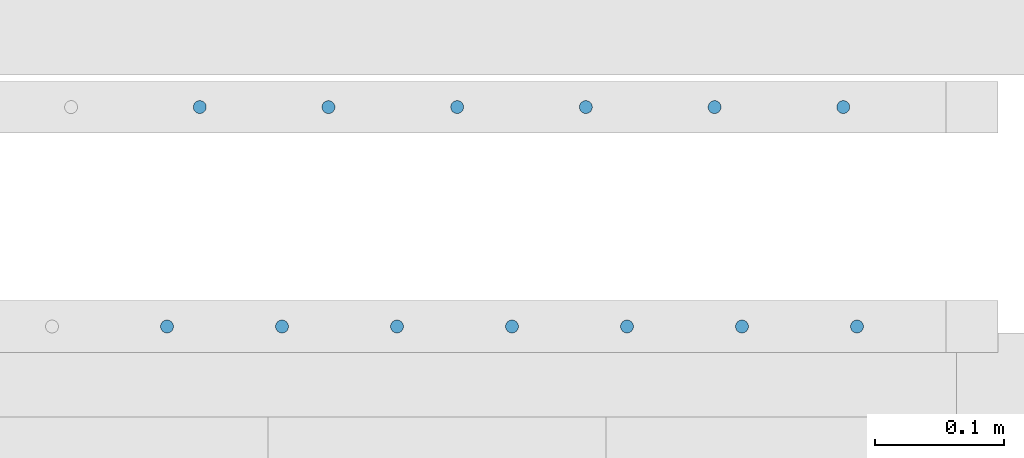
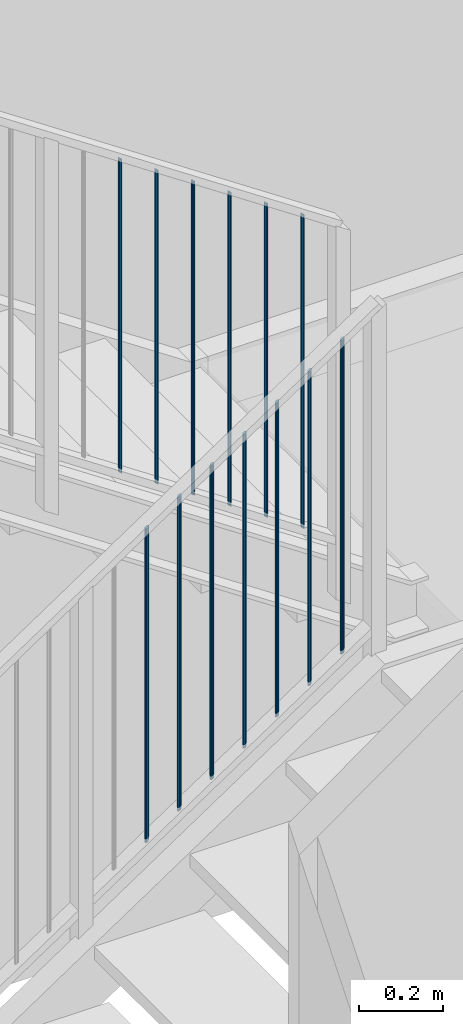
# One storey, part 8 of 117: 13 members, 2 elements without a shape of their own.
"""IFC2X3 building model written with IfcOpenShell, lengths in millimetres."""

import ifcopenshell
import ifcopenshell.guid

model = None  # the IFC model being written
_history = None  # IfcOwnerHistory: only IFC2X3 demands one
_inside = {}  # id of a spatial element -> (the spatial element, [elements in it])
_under = {}  # id of a project, library or spatial element -> (it, [spatial elements below it])
_declared = {}  # id of a project -> (the project, [libraries it declares])
_typed = {}  # id of a type object -> (the type object, [elements of that type])
_made_of = {}  # id of a material, layer set ... -> (it, [elements and type objects made of it])


def new_model(schema):
    """Start an empty IFC model of exactly this schema.

    Asked for "IFC4X3", IfcOpenShell would pick the latest addendum, in which some entities
    have other attributes; the version numbers below select the first issue.
    IFC2X3 requires an IfcOwnerHistory on every rooted entity: one is made here for all.
    """
    global model, _history
    if schema == "IFC4X3":
        model = ifcopenshell.file(schema_version=(4, 3, 0, 0))
    else:
        model = ifcopenshell.file(schema=schema)
    _inside.clear()
    _under.clear()
    _declared.clear()
    _typed.clear()
    _made_of.clear()
    _history = None
    if model.schema == "IFC2X3":
        org = make("IfcOrganization", Name="unknown")
        user = make(
            "IfcPersonAndOrganization",
            ThePerson=make("IfcPerson", FamilyName="unknown"),
            TheOrganization=org,
        )
        app = make(
            "IfcApplication",
            ApplicationDeveloper=org,
            Version="unknown",
            ApplicationFullName="unknown",
            ApplicationIdentifier="unknown",
        )
        _history = make(
            "IfcOwnerHistory",
            OwningUser=user,
            OwningApplication=app,
            ChangeAction="ADDED",
            CreationDate=0,
        )
    return model


def make(cls, **values):
    """One entity of the class cls with the attributes given. An attribute that is None is left unset."""
    return model.create_entity(
        cls, **{name: value for name, value in values.items() if value is not None}
    )


def entity(cls, *values):
    """Any entity or typed value of the class cls, its attributes in the order of the schema. None: left unset."""
    e = model.create_entity(cls)
    for i, value in enumerate(values):
        if value is not None:
            e[i] = value
    return e


def rooted(cls, **values):
    """An entity with a GlobalId (a new one), such as an element, a storey or a relation."""
    return make(cls, GlobalId=ifcopenshell.guid.new(), OwnerHistory=_history, **values)


def si_unit(unit_type, name, prefix=None):
    """IfcSIUnit, for example si_unit("LENGTHUNIT", "METRE", prefix="MILLI")."""
    return make("IfcSIUnit", UnitType=unit_type, Prefix=prefix, Name=name)


def converted_unit(unit_type, name, factor, base, dimensions=None, offset=None):
    """IfcConversionBasedUnit, such as the inch: factor (a typed value) times the base unit."""
    return make(
        "IfcConversionBasedUnit"
        if offset is None
        else "IfcConversionBasedUnitWithOffset",
        ConversionOffset=offset,
        Dimensions=None
        if dimensions is None
        else entity("IfcDimensionalExponents", *dimensions),
        UnitType=unit_type,
        Name=name,
        ConversionFactor=make(
            "IfcMeasureWithUnit", ValueComponent=factor, UnitComponent=base
        ),
    )


def derived_unit(unit_type, elements):
    """IfcDerivedUnit: a product of units, each with its exponent."""
    return make(
        "IfcDerivedUnit",
        Elements=[
            make("IfcDerivedUnitElement", Unit=unit, Exponent=power)
            for unit, power in elements
        ],
        UnitType=unit_type,
    )


def money_unit(currency):
    """IfcMonetaryUnit."""
    return make("IfcMonetaryUnit", Currency=currency)


def assignment(units):
    """IfcUnitAssignment: the units of a project."""
    return None if units is None else make("IfcUnitAssignment", Units=units)


def point(xyz):
    """IfcCartesianPoint."""
    return None if xyz is None else make("IfcCartesianPoint", Coordinates=xyz)


def direction(xyz):
    """IfcDirection."""
    return None if xyz is None else make("IfcDirection", DirectionRatios=xyz)


def frame(location, z_axis=None, x_axis=None):
    """IfcAxis2Placement3D, a coordinate frame: its origin and axes. An axis left out is left unset."""
    return make(
        "IfcAxis2Placement3D",
        Location=point(location),
        Axis=direction(z_axis),
        RefDirection=direction(x_axis),
    )


def origin_with_axes():
    """The frame at (0, 0, 0) with the z axis (0, 0, 1) and the x axis (1, 0, 0) written out."""
    return frame((0.0, 0.0, 0.0), z_axis=(0.0, 0.0, 1.0), x_axis=(1.0, 0.0, 0.0))


def place(relative_to, where):
    """IfcLocalPlacement: puts the frame where relative to a parent placement (None: the world)."""
    return make(
        "IfcLocalPlacement", PlacementRelTo=relative_to, RelativePlacement=where
    )


def context(
    kind, dimensions, precision=None, world=None, true_north=None, identifier=None
):
    """IfcGeometricRepresentationContext, for example the 3D "Model" context."""
    return make(
        "IfcGeometricRepresentationContext",
        ContextIdentifier=identifier,
        ContextType=kind,
        CoordinateSpaceDimension=dimensions,
        Precision=precision,
        WorldCoordinateSystem=world,
        TrueNorth=true_north,
    )


def subcontext(parent, identifier, kind, view, scale=None):
    """IfcGeometricRepresentationSubContext, for example "Body" below "Model"."""
    return make(
        "IfcGeometricRepresentationSubContext",
        ContextIdentifier=identifier,
        ContextType=kind,
        ParentContext=parent,
        TargetScale=scale,
        TargetView=view,
    )


def project(units=None, contexts=None):
    """IfcProject with its units and contexts."""
    return rooted(
        "IfcProject",
        Name="project",
        RepresentationContexts=contexts,
        UnitsInContext=assignment(units),
    )


def spatial(cls, under=None, at=None, **own):
    """A site, building, storey or space (cls), placed at a placement, below another one or the project."""
    s = rooted(cls, ObjectPlacement=at, **own)
    if under is not None:
        _under.setdefault(under.id(), (under, []))[1].append(s)
    return s


def faces_of(points, faces, orient=None, outer=None):
    """IfcFace entities. A face is a list of loops; a loop is a list of indices into points, from 0.

    orient and outer hold one flag for each loop. By default every Orientation is true, the
    first loop of a face is its IfcFaceOuterBound and the others are IfcFaceBound.
    """
    made = []
    for i, loops in enumerate(faces):
        bounds = []
        for j, loop in enumerate(loops):
            is_outer = j == 0 if outer is None else outer[i][j]
            bounds.append(
                make(
                    "IfcFaceOuterBound" if is_outer else "IfcFaceBound",
                    Bound=make("IfcPolyLoop", Polygon=[points[k] for k in loop]),
                    Orientation=True if orient is None else orient[i][j],
                )
            )
        made.append(make("IfcFace", Bounds=bounds))
    return made


def faceted_brep(points, faces, orient=None, outer=None, voids=None):
    """IfcFacetedBrep: a solid bounded by flat faces; with voids (closed shells), ...WithVoids."""
    shared = [point(p) for p in points]
    hull = make("IfcClosedShell", CfsFaces=faces_of(shared, faces, orient, outer))
    if voids is None:
        return make("IfcFacetedBrep", Outer=hull)
    return make(
        "IfcFacetedBrepWithVoids",
        Outer=hull,
        Voids=[
            make(cls, CfsFaces=faces_of(shared, fs, o, b)) for cls, fs, o, b in voids
        ],
    )


def shape(context_of_items, identifier, shape_type, items):
    """IfcShapeRepresentation: the items that make up one representation, for example the "Body"."""
    return make(
        "IfcShapeRepresentation",
        ContextOfItems=context_of_items,
        RepresentationIdentifier=identifier,
        RepresentationType=shape_type,
        Items=items,
    )


def source(mapping_origin, context_of_items, identifier, shape_type, items):
    """IfcRepresentationMap: a shape defined once, which mapped items show again and again."""
    return make(
        "IfcRepresentationMap",
        MappingOrigin=mapping_origin,
        MappedRepresentation=shape(context_of_items, identifier, shape_type, items),
    )


def transform(
    local_origin,
    x_axis=None,
    y_axis=None,
    z_axis=None,
    scale=None,
    scale2=None,
    scale3=None,
    uniform=True,
):
    """IfcCartesianTransformationOperator3D, or its non-uniform kind. x_axis, y_axis, z_axis: its Axis1, 2, 3."""
    if uniform:
        return make(
            "IfcCartesianTransformationOperator3D",
            Axis1=direction(x_axis),
            Axis2=direction(y_axis),
            LocalOrigin=point(local_origin),
            Scale=scale,
            Axis3=direction(z_axis),
        )
    return make(
        "IfcCartesianTransformationOperator3DnonUniform",
        Axis1=direction(x_axis),
        Axis2=direction(y_axis),
        LocalOrigin=point(local_origin),
        Scale=scale,
        Axis3=direction(z_axis),
        Scale2=scale2,
        Scale3=scale3,
    )


def mapped(mapping_source, mapping_target):
    """IfcMappedItem: shows the shape of a source again, moved by a transform."""
    return make(
        "IfcMappedItem", MappingSource=mapping_source, MappingTarget=mapping_target
    )


def material(Name=None, Category=None):
    """IfcMaterial."""
    return make("IfcMaterial", Name=Name, Category=Category)


def made_of(thing, what):
    """Note that an element or type object is made of a material, layer set ...; save() writes the relation."""
    if what is not None:
        _made_of.setdefault(what.id(), (what, []))[1].append(thing)
    return thing


def type_object(cls, material=None, **own):
    """A type object (cls), such as IfcWallType, which elements share."""
    return made_of(rooted(cls, **own), material)


def type_shapes(of_type, sources):
    """Give a type object the sources (RepresentationMaps) that its elements show as mapped items."""
    of_type.RepresentationMaps = sources


def element(
    cls,
    number,
    at=None,
    inside=None,
    cuts=None,
    type_object=None,
    material=None,
    context=None,
    identifier="Body",
    shape_type=None,
    held_by="IfcProductDefinitionShape",
    body=None,
    shapes=None,
    **own,
):
    """One element of the class cls, such as IfcWall. Its Tag is "e" and its number.

    at: its placement. inside: the storey or other place that contains it. cuts: it is an
    opening in that element (IfcRelVoidsElement). A single representation is given by context,
    identifier, shape_type and body (its items); several are given by shapes. held_by: the class
    of the entity that holds the representations. save() writes the other relations.
    """
    e = rooted(cls, Tag="e%d" % number, ObjectPlacement=at, **own)
    if body is not None:
        shapes = [shape(context, identifier, shape_type, body)]
    if shapes is not None:
        e.Representation = make(held_by, Representations=shapes)
    if inside is not None:
        _inside.setdefault(inside.id(), (inside, []))[1].append(e)
    if cuts is not None:
        rooted(
            "IfcRelVoidsElement", RelatingBuildingElement=cuts, RelatedOpeningElement=e
        )
    if type_object is not None:
        _typed.setdefault(type_object.id(), (type_object, []))[1].append(e)
    return made_of(e, material)


def aggregate(whole, parts):
    """IfcRelAggregates: a whole, such as a stair, and the parts it consists of."""
    return rooted("IfcRelAggregates", RelatingObject=whole, RelatedObjects=parts)


def save(model, path):
    """Write the relations noted so far, then the file.

    IfcRelAggregates (storeys below a building ...), IfcRelContainedInSpatialStructure (elements
    in a storey), IfcRelDefinesByType, IfcRelAssociatesMaterial and IfcRelDeclares: one each for
    every whole, place, type object, material and project.
    """
    for whole, parts in _under.values():
        aggregate(whole, parts)
    for where, things in _inside.values():
        rooted(
            "IfcRelContainedInSpatialStructure",
            RelatedElements=things,
            RelatingStructure=where,
        )
    for kind, things in _typed.values():
        rooted("IfcRelDefinesByType", RelatedObjects=things, RelatingType=kind)
    for what, things in _made_of.values():
        rooted("IfcRelAssociatesMaterial", RelatedObjects=things, RelatingMaterial=what)
    for by, libraries in _declared.values():
        rooted("IfcRelDeclares", RelatingContext=by, RelatedDefinitions=libraries)
    model.write(path)


model = new_model("IFC2X3")

# Units and contexts
model_context = context("Model", 3, precision=0.01, world=origin_with_axes(), true_north=direction((0.0, 1.0)))
body_context = subcontext(model_context, "Body", "Model", "MODEL_VIEW")
ifc_project = project(units=[si_unit("LENGTHUNIT", "METRE", prefix="MILLI"), si_unit("AREAUNIT", "SQUARE_METRE"), si_unit("VOLUMEUNIT", "CUBIC_METRE"), converted_unit("PLANEANGLEUNIT", "DEGREE", entity("IfcPlaneAngleMeasure", 0.0174532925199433), si_unit("PLANEANGLEUNIT", "RADIAN"), dimensions=[0, 0, 0, 0, 0, 0, 0]), money_unit("EUR"), converted_unit("TIMEUNIT", "Year", entity("IfcTimeMeasure", 31557600.0), si_unit("TIMEUNIT", "SECOND"), dimensions=[0, 0, 1, 0, 0, 0, 0]), si_unit("MASSUNIT", "GRAM", prefix="KILO"), si_unit("THERMODYNAMICTEMPERATUREUNIT", "DEGREE_CELSIUS"), si_unit("LUMINOUSINTENSITYUNIT", "LUMEN"), si_unit("ENERGYUNIT", "JOULE", prefix="MEGA"), derived_unit("THERMALCONDUCTANCEUNIT", [(si_unit("POWERUNIT", "WATT"), 1), (si_unit("LENGTHUNIT", "METRE"), -1), (si_unit("THERMODYNAMICTEMPERATUREUNIT", "KELVIN"), -1)]), derived_unit("SPECIFICHEATCAPACITYUNIT", [(si_unit("ENERGYUNIT", "JOULE"), 1), (si_unit("MASSUNIT", "GRAM", prefix="KILO"), -1), (si_unit("THERMODYNAMICTEMPERATUREUNIT", "KELVIN"), -1)]), derived_unit("MASSDENSITYUNIT", [(si_unit("MASSUNIT", "GRAM", prefix="KILO"), 1), (si_unit("VOLUMEUNIT", "CUBIC_METRE"), -1)])], contexts=[model_context])

# Site, building, storey
site_placement = place(None, origin_with_axes())
site = spatial("IfcSite", under=ifc_project, at=site_placement, Name="Site", CompositionType="ELEMENT")
building_placement = place(site_placement, origin_with_axes())
building = spatial("IfcBuilding", under=site, at=building_placement, Name="Naam gebouw", CompositionType="ELEMENT")
storey_placement = place(building_placement, frame((0.0, 0.0, 4150.0), z_axis=(0.0, 0.0, 1.0), x_axis=(1.0, 0.0, 0.0)))
storey = spatial("IfcBuildingStorey", under=building, at=storey_placement, Name="1e verdieping N", CompositionType="ELEMENT", Elevation=4150.0)

# Railing, members
railing_type = type_object("IfcRailingType", Name="Railing Type", PredefinedType="NOTDEFINED")
railing_1_placement = place(storey_placement, frame((56130.0, 22285.9124251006, 163.6876419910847), z_axis=(0.0, 0.0, 1.0), x_axis=(1.0, 0.0, 0.0)))
railing_1 = element("IfcRailing", 1, at=railing_1_placement, inside=storey, type_object=railing_type, Name="_Reling-x", PredefinedType="NOTDEFINED")
ifc_material = material(Name="Metaal - Staal C")
member_type = type_object("IfcMemberType", Name="IfcMember", PredefinedType="MEMBER")
shared_shape_1 = source(origin_with_axes(), body_context, "Body", "Brep", [
    faceted_brep([(0.0, -5.000000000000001, -3.340321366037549), (0.8682408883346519, -4.924038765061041, -3.289574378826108), (0.8682408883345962, -4.924038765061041, 904.2104256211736), (0.0, -5.000000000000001, 904.1596786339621), (-0.8682408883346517, -4.924038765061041, -3.289574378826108), (-1.710100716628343, -4.698463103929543, -3.13887533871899), (-2.500000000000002, -4.330127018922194, -2.892803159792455), (-3.213938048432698, -3.83022221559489, -2.558834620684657), (-3.830222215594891, -3.213938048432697, -2.147117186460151), (-4.330127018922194, -2.500000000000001, -1.670160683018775), (-4.698463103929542, -1.710100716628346, -1.142457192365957), (-4.924038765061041, -0.8682408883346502, -0.5800407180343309), (-5.0, 0.0, 0.0), (-4.92403876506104, 0.8682408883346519, 0.5800407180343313), (-4.698463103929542, 1.710100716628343, 1.142457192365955), (-4.330127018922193, 2.500000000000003, 1.670160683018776), (-3.83022221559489, 3.213938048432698, 2.147117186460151), (-3.213938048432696, 3.830222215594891, 2.558834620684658), (-2.5, 4.330127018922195, 2.892803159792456), (-1.710100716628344, 4.698463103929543, 3.13887533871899), (-0.8682408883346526, 4.924038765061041, 3.289574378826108), (0.0, 5.000000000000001, 3.340321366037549), (0.8682408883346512, 4.924038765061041, 3.289574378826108), (1.710100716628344, 4.698463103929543, 3.13887533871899), (2.5, 4.330127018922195, 2.892803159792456), (3.213938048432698, 3.83022221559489, 2.558834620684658), (3.83022221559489, 3.213938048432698, 2.147117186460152), (4.330127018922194, 2.499999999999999, 1.670160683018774), (4.698463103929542, 1.710100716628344, 1.142457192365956), (4.92403876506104, 0.8682408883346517, 0.580040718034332), (5.0, 0.0, 0.0), (4.92403876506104, -0.8682408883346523, -0.5800407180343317), (4.698463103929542, -1.710100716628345, -1.142457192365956), (4.330127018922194, -2.500000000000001, -1.670160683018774), (3.83022221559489, -3.213938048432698, -2.147117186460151), (3.213938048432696, -3.830222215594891, -2.558834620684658), (2.5, -4.330127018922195, -2.892803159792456), (1.710100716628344, -4.698463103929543, -3.13887533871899), (1.710100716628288, -4.698463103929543, 904.3611246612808), (2.499999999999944, -4.330127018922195, 904.6071968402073), (3.213938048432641, -3.830222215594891, 904.9411653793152), (3.830222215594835, -3.213938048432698, 905.3528828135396), (4.330127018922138, -2.500000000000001, 905.8298393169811), (4.698463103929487, -1.710100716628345, 906.3575428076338), (4.924038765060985, -0.8682408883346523, 906.9199592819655), (4.999999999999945, 0.0, 907.4999999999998), (4.924038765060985, 0.8682408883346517, 908.0800407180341), (4.698463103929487, 1.710100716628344, 908.6424571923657), (4.330127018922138, 2.499999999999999, 909.1701606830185), (3.830222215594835, 3.213938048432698, 909.6471171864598), (3.213938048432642, 3.83022221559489, 910.0588346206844), (2.499999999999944, 4.330127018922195, 910.3928031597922), (1.710100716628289, 4.698463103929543, 910.6388753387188), (0.8682408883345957, 4.924038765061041, 910.7895743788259), (0.0, 5.000000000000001, 910.8403213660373), (-0.8682408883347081, 4.924038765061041, 910.7895743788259), (-1.710100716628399, 4.698463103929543, 910.6388753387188), (-2.500000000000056, 4.330127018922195, 910.3928031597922), (-3.213938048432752, 3.830222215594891, 910.0588346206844), (-3.830222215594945, 3.213938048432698, 909.6471171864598), (-4.330127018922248, 2.500000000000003, 909.1701606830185), (-4.698463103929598, 1.710100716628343, 908.6424571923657), (-4.924038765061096, 0.8682408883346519, 908.0800407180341), (-5.000000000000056, 0.0, 907.4999999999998), (-4.924038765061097, -0.8682408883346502, 906.9199592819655), (-4.698463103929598, -1.710100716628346, 906.3575428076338), (-4.330127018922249, -2.500000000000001, 905.8298393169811), (-3.830222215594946, -3.213938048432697, 905.3528828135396), (-3.213938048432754, -3.83022221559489, 904.9411653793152), (-2.500000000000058, -4.330127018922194, 904.6071968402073), (-1.710100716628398, -4.698463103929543, 904.3611246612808), (-0.8682408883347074, -4.924038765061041, 904.2104256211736)], [[[0, 1, 2, 3]], [[0, 4, 5, 6, 7, 8, 9, 10, 11, 12, 13, 14, 15, 16, 17, 18, 19, 20, 21, 22, 23, 24, 25, 26, 27, 28, 29, 30, 31, 32, 33, 34, 35, 36, 37, 1]], [[1, 37, 38, 2]], [[3, 2, 38, 39, 40, 41, 42, 43, 44, 45, 46, 47, 48, 49, 50, 51, 52, 53, 54, 55, 56, 57, 58, 59, 60, 61, 62, 63, 64, 65, 66, 67, 68, 69, 70, 71]], [[4, 0, 3, 71]], [[5, 4, 71, 70]], [[6, 5, 70, 69]], [[7, 6, 69, 68]], [[8, 7, 68, 67]], [[9, 8, 67, 66]], [[10, 9, 66, 65]], [[11, 10, 65, 64]], [[12, 11, 64, 63]], [[13, 12, 63, 62]], [[14, 13, 62, 61]], [[15, 14, 61, 60]], [[16, 15, 60, 59]], [[17, 16, 59, 58]], [[18, 17, 58, 57]], [[19, 18, 57, 56]], [[20, 19, 56, 55]], [[21, 20, 55, 54]], [[22, 21, 54, 53]], [[23, 22, 53, 52]], [[24, 23, 52, 51]], [[25, 24, 51, 50]], [[26, 25, 50, 49]], [[27, 26, 49, 48]], [[28, 27, 48, 47]], [[29, 28, 47, 46]], [[30, 29, 46, 45]], [[31, 30, 45, 44]], [[32, 31, 44, 43]], [[33, 32, 43, 42]], [[34, 33, 42, 41]], [[35, 34, 41, 40]], [[36, 35, 40, 39]], [[37, 36, 39, 38]]]),
])
member_1_placement = place(railing_1_placement, frame((2016.391460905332, 24.99999999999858, 1260.315958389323), z_axis=(0.0, 0.0, 1.0), x_axis=(1.0, 0.0, 0.0)))
member_1 = element("IfcMember", 2, at=member_1_placement, type_object=member_type, material=ifc_material, Name="_Spijlen-x", ObjectType="MEMBER", context=body_context, shape_type="MappedRepresentation", body=[
    mapped(shared_shape_1, transform((0.0, 0.0, 0.0), x_axis=(0.0, -1.0, 0.0), y_axis=(1.0, 0.0, 0.0), z_axis=(0.0, 0.0, 1.0))),
])
member_2_placement = place(railing_1_placement, frame((2105.478395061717, 24.99999999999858, 1319.831756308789), z_axis=(0.0, 0.0, 1.0), x_axis=(1.0, 0.0, 0.0)))
member_2 = element("IfcMember", 3, at=member_2_placement, type_object=member_type, material=ifc_material, Name="_Spijlen-x", ObjectType="MEMBER", context=body_context, shape_type="MappedRepresentation", body=[
    mapped(shared_shape_1, transform((0.0, 0.0, 0.0), x_axis=(0.0, -1.0, 0.0), y_axis=(1.0, 0.0, 0.0), z_axis=(0.0, 0.0, 1.0))),
])
member_3_placement = place(railing_1_placement, frame((2283.652263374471, 24.99999999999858, 1438.863352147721), z_axis=(0.0, 0.0, 1.0), x_axis=(1.0, 0.0, 0.0)))
member_3 = element("IfcMember", 4, at=member_3_placement, type_object=member_type, material=ifc_material, Name="_Spijlen-x", ObjectType="MEMBER", context=body_context, shape_type="MappedRepresentation", body=[
    mapped(shared_shape_1, transform((0.0, 0.0, 0.0), x_axis=(0.0, -1.0, 0.0), y_axis=(1.0, 0.0, 0.0), z_axis=(0.0, 0.0, 1.0))),
])
member_4_placement = place(railing_1_placement, frame((2461.826131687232, 24.99999999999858, 1557.894947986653), z_axis=(0.0, 0.0, 1.0), x_axis=(1.0, 0.0, 0.0)))
member_4 = element("IfcMember", 5, at=member_4_placement, type_object=member_type, material=ifc_material, Name="_Spijlen-x", ObjectType="MEMBER", context=body_context, shape_type="MappedRepresentation", body=[
    mapped(shared_shape_1, transform((0.0, 0.0, 0.0), x_axis=(0.0, -1.0, 0.0), y_axis=(1.0, 0.0, 0.0), z_axis=(0.0, 0.0, 1.0))),
])
member_5_placement = place(railing_1_placement, frame((2194.565329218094, 24.99999999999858, 1379.347554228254), z_axis=(0.0, 0.0, 1.0), x_axis=(1.0, 0.0, 0.0)))
member_5 = element("IfcMember", 6, at=member_5_placement, type_object=member_type, material=ifc_material, Name="_Spijlen-x", ObjectType="MEMBER", context=body_context, shape_type="MappedRepresentation", body=[
    mapped(shared_shape_1, transform((0.0, 0.0, 0.0), x_axis=(0.0, -1.0, 0.0), y_axis=(1.0, 0.0, 0.0), z_axis=(0.0, 0.0, 1.0))),
])
member_6_placement = place(railing_1_placement, frame((2550.913065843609, 24.99999999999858, 1617.410745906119), z_axis=(0.0, 0.0, 1.0), x_axis=(1.0, 0.0, 0.0)))
member_6 = element("IfcMember", 7, at=member_6_placement, type_object=member_type, material=ifc_material, Name="_Spijlen-x", ObjectType="MEMBER", context=body_context, shape_type="MappedRepresentation", body=[
    mapped(shared_shape_1, transform((0.0, 0.0, 0.0), x_axis=(0.0, -1.0, 0.0), y_axis=(1.0, 0.0, 0.0), z_axis=(0.0, 0.0, 1.0))),
])
member_7_placement = place(railing_1_placement, frame((2372.739197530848, 24.99999999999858, 1498.379150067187), z_axis=(0.0, 0.0, 1.0), x_axis=(1.0, 0.0, 0.0)))
member_7 = element("IfcMember", 8, at=member_7_placement, type_object=member_type, material=ifc_material, Name="_Spijlen-x", ObjectType="MEMBER", context=body_context, shape_type="MappedRepresentation", body=[
    mapped(shared_shape_1, transform((0.0, 0.0, 0.0), x_axis=(0.0, -1.0, 0.0), y_axis=(1.0, 0.0, 0.0), z_axis=(0.0, 0.0, 1.0))),
])
aggregate(railing_1, [member_1, member_2, member_3, member_4, member_5, member_6, member_7])

railing_2_placement = place(storey_placement, frame((56130.0, 22505.9124251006, 1905.987766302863), z_axis=(0.0, 0.0, 1.0), x_axis=(1.0, 0.0, 0.0)))
railing_2 = element("IfcRailing", 9, at=railing_2_placement, inside=storey, type_object=railing_type, Name="_Reling-x", PredefinedType="NOTDEFINED")
shared_shape_2 = source(origin_with_axes(), body_context, "Body", "Brep", [
    faceted_brep([(0.0, -5.0, 3.357180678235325), (0.0, -5.000000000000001, 910.8571806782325), (-0.8682408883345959, -4.924038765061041, 910.806177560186), (-0.8682408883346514, -4.92403876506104, 3.306177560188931), (0.8682408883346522, -4.92403876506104, 3.306177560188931), (0.8682408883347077, -4.924038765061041, 910.806177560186), (1.710100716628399, -4.698463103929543, 910.6547179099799), (2.500000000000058, -4.330127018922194, 910.4074037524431), (3.213938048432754, -3.83022221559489, 910.0717496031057), (3.830222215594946, -3.213938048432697, 909.6579541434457), (4.330127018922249, -2.500000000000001, 909.1785903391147), (4.698463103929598, -1.710100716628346, 908.6482234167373), (4.924038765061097, -0.8682408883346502, 908.0829683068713), (5.000000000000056, 0.0, 907.499999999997), (4.924038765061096, 0.8682408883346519, 906.9170316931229), (4.698463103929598, 1.710100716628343, 906.3517765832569), (4.330127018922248, 2.500000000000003, 905.8214096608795), (3.830222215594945, 3.213938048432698, 905.3420458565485), (3.213938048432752, 3.830222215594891, 904.9282503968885), (2.500000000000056, 4.330127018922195, 904.5925962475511), (1.710100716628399, 4.698463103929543, 904.3452820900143), (0.8682408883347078, 4.924038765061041, 904.1938224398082), (0.0, 5.000000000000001, 904.1428193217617), (-0.868240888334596, 4.924038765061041, 904.1938224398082), (-1.710100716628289, 4.698463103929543, 904.3452820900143), (-2.499999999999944, 4.330127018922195, 904.5925962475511), (-3.213938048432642, 3.83022221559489, 904.9282503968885), (-3.830222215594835, 3.213938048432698, 905.3420458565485), (-4.330127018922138, 2.499999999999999, 905.8214096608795), (-4.698463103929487, 1.710100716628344, 906.3517765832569), (-4.924038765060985, 0.8682408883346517, 906.9170316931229), (-4.999999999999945, 0.0, 907.499999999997), (-4.924038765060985, -0.8682408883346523, 908.0829683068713), (-4.698463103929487, -1.710100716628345, 908.6482234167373), (-4.330127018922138, -2.500000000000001, 909.1785903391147), (-3.830222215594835, -3.213938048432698, 909.6579541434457), (-3.213938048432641, -3.830222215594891, 910.0717496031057), (-2.499999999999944, -4.330127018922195, 910.4074037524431), (-1.710100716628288, -4.698463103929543, 910.6547179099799), (-1.710100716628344, -4.698463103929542, 3.154717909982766), (-2.5, -4.330127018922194, 2.907403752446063), (-3.213938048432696, -3.83022221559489, 2.571749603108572), (-3.83022221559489, -3.213938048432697, 2.15795414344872), (-4.330127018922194, -2.5, 1.678590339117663), (-4.698463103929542, -1.710100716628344, 1.148223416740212), (-4.92403876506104, -0.8682408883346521, 0.5829683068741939), (-5.0, 0.0, 0.0), (-4.92403876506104, 0.8682408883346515, -0.582968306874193), (-4.698463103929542, 1.710100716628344, -1.148223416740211), (-4.330127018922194, 2.499999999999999, -1.678590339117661), (-3.83022221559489, 3.213938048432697, -2.157954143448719), (-3.213938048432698, 3.83022221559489, -2.571749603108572), (-2.5, 4.330127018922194, -2.907403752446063), (-1.710100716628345, 4.698463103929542, -3.154717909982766), (-0.8682408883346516, 4.92403876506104, -3.306177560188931), (0.0, 5.0, -3.357180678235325), (0.8682408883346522, 4.92403876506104, -3.306177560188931), (1.710100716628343, 4.698463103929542, -3.154717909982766), (2.5, 4.330127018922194, -2.907403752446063), (3.213938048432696, 3.83022221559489, -2.571749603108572), (3.83022221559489, 3.213938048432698, -2.157954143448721), (4.330127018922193, 2.500000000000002, -1.678590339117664), (4.698463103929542, 1.710100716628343, -1.148223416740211), (4.92403876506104, 0.8682408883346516, -0.5829683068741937), (5.0, 0.0, 0.0), (4.924038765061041, -0.86824088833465, 0.5829683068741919), (4.698463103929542, -1.710100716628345, 1.148223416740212), (4.330127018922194, -2.5, 1.678590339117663), (3.830222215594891, -3.213938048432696, 2.157954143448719), (3.213938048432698, -3.830222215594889, 2.571749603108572), (2.500000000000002, -4.330127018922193, 2.907403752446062), (1.710100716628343, -4.698463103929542, 3.154717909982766)], [[[0, 1, 2, 3]], [[4, 5, 1, 0]], [[1, 5, 6, 7, 8, 9, 10, 11, 12, 13, 14, 15, 16, 17, 18, 19, 20, 21, 22, 23, 24, 25, 26, 27, 28, 29, 30, 31, 32, 33, 34, 35, 36, 37, 38, 2]], [[3, 2, 38, 39]], [[0, 3, 39, 40, 41, 42, 43, 44, 45, 46, 47, 48, 49, 50, 51, 52, 53, 54, 55, 56, 57, 58, 59, 60, 61, 62, 63, 64, 65, 66, 67, 68, 69, 70, 71, 4]], [[71, 6, 5, 4]], [[70, 7, 6, 71]], [[69, 8, 7, 70]], [[68, 9, 8, 69]], [[67, 10, 9, 68]], [[66, 11, 10, 67]], [[65, 12, 11, 66]], [[64, 13, 12, 65]], [[63, 14, 13, 64]], [[62, 15, 14, 63]], [[61, 16, 15, 62]], [[60, 17, 16, 61]], [[59, 18, 17, 60]], [[58, 19, 18, 59]], [[57, 20, 19, 58]], [[56, 21, 20, 57]], [[55, 22, 21, 56]], [[54, 23, 22, 55]], [[53, 24, 23, 54]], [[52, 25, 24, 53]], [[51, 26, 25, 52]], [[50, 27, 26, 51]], [[49, 28, 27, 50]], [[48, 29, 28, 49]], [[47, 30, 29, 48]], [[46, 31, 30, 47]], [[45, 32, 31, 46]], [[44, 33, 32, 45]], [[43, 34, 33, 44]], [[42, 35, 34, 43]], [[41, 36, 35, 42]], [[40, 37, 36, 41]], [[39, 38, 37, 40]]]),
])
type_shapes(member_type, [shared_shape_1, shared_shape_2])
member_8_placement = place(railing_2_placement, frame((2141.461346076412, -24.99999999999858, 404.7368672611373), z_axis=(0.0, 0.0, 1.0), x_axis=(1.0, 0.0, 0.0)))
member_8 = element("IfcMember", 10, at=member_8_placement, type_object=member_type, material=ifc_material, Name="_Spijlen-x", ObjectType="MEMBER", context=body_context, shape_type="MappedRepresentation", body=[
    mapped(shared_shape_2, transform((0.0, 0.0, 0.0), x_axis=(0.0, -1.0, 0.0), y_axis=(1.0, 0.0, 0.0), z_axis=(0.0, 0.0, 1.0))),
])
member_9_placement = place(railing_2_placement, frame((2041.753615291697, -24.99999999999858, 471.6842407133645), z_axis=(0.0, 0.0, 1.0), x_axis=(1.0, 0.0, 0.0)))
member_9 = element("IfcMember", 11, at=member_9_placement, type_object=member_type, material=ifc_material, Name="_Spijlen-x", ObjectType="MEMBER", context=body_context, shape_type="MappedRepresentation", body=[
    mapped(shared_shape_2, transform((0.0, 0.0, 0.0), x_axis=(0.0, -1.0, 0.0), y_axis=(1.0, 0.0, 0.0), z_axis=(0.0, 0.0, 1.0))),
])
member_10_placement = place(railing_2_placement, frame((2241.169076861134, -24.99999999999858, 337.7894938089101), z_axis=(0.0, 0.0, 1.0), x_axis=(1.0, 0.0, 0.0)))
member_10 = element("IfcMember", 12, at=member_10_placement, type_object=member_type, material=ifc_material, Name="_Spijlen-x", ObjectType="MEMBER", context=body_context, shape_type="MappedRepresentation", body=[
    mapped(shared_shape_2, transform((0.0, 0.0, 0.0), x_axis=(0.0, -1.0, 0.0), y_axis=(1.0, 0.0, 0.0), z_axis=(0.0, 0.0, 1.0))),
])
member_11_placement = place(railing_2_placement, frame((2340.876807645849, -24.99999999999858, 270.8421203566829), z_axis=(0.0, 0.0, 1.0), x_axis=(1.0, 0.0, 0.0)))
member_11 = element("IfcMember", 13, at=member_11_placement, type_object=member_type, material=ifc_material, Name="_Spijlen-x", ObjectType="MEMBER", context=body_context, shape_type="MappedRepresentation", body=[
    mapped(shared_shape_2, transform((0.0, 0.0, 0.0), x_axis=(0.0, -1.0, 0.0), y_axis=(1.0, 0.0, 0.0), z_axis=(0.0, 0.0, 1.0))),
])
member_12_placement = place(railing_2_placement, frame((2540.292269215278, -24.99999999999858, 136.9473734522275), z_axis=(0.0, 0.0, 1.0), x_axis=(1.0, 0.0, 0.0)))
member_12 = element("IfcMember", 14, at=member_12_placement, type_object=member_type, material=ifc_material, Name="_Spijlen-x", ObjectType="MEMBER", context=body_context, shape_type="MappedRepresentation", body=[
    mapped(shared_shape_2, transform((0.0, 0.0, 0.0), x_axis=(0.0, -1.0, 0.0), y_axis=(1.0, 0.0, 0.0), z_axis=(0.0, 0.0, 1.0))),
])
member_13_placement = place(railing_2_placement, frame((2440.584538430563, -24.99999999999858, 203.8947469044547), z_axis=(0.0, 0.0, 1.0), x_axis=(1.0, 0.0, 0.0)))
member_13 = element("IfcMember", 15, at=member_13_placement, type_object=member_type, material=ifc_material, Name="_Spijlen-x", ObjectType="MEMBER", context=body_context, shape_type="MappedRepresentation", body=[
    mapped(shared_shape_2, transform((0.0, 0.0, 0.0), x_axis=(0.0, -1.0, 0.0), y_axis=(1.0, 0.0, 0.0), z_axis=(0.0, 0.0, 1.0))),
])
aggregate(railing_2, [member_8, member_9, member_10, member_11, member_12, member_13])

save(model, "model.ifc")
